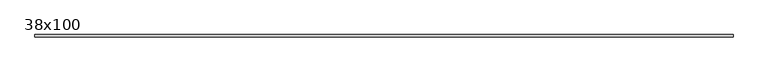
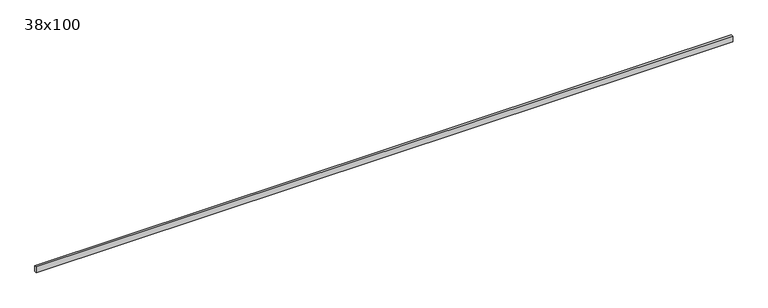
"""IFC4 building model written with IfcOpenShell, lengths in millimetres: beam geometry, Poutre - Bois de construction de dimensions courantes : 38x100."""

from ifc_helpers import new_model, si_unit, frame, origin, place, context, project, spatial, polyline, outline, extrude, source, transform, mapped, element, save


def beam_38x100_b8fadd03(model_context):
    return source(origin(), model_context, "Body", "SweptSolid", [
        extrude(outline(polyline([(5842.0, 19.05), (5842.0, -19.05), (-5842.0, -19.05), (-5842.0, 19.05), (5842.0, 19.05)])), frame((0.0, 0.0, -50.0), z_axis=(0.0, 0.0, 1.0), x_axis=(1.0, 0.0, 0.0)), (0.0, 0.0, 1.0), 100.0),
    ])


if __name__ == "__main__":
    model = new_model("IFC4")
    model_context = context("Model", 3, world=origin())
    ifc_project = project(units=[si_unit("LENGTHUNIT", "METRE", prefix="MILLI")], contexts=[model_context])
    site = spatial("IfcSite", under=ifc_project)
    building = spatial("IfcBuilding", under=site)
    placement = place(None, origin())
    beam_38x100_shape = beam_38x100_b8fadd03(model_context)
    element("IfcBeam", 1, ObjectType="Poutre - Bois de construction de dimensions courantes : 38x100", at=placement, inside=building, context=model_context, shape_type="MappedRepresentation", body=[
        mapped(beam_38x100_shape, transform((0.0, 0.0, 0.0), x_axis=(1.0, 0.0, 0.0), y_axis=(0.0, 1.0, 0.0), z_axis=(0.0, 0.0, 1.0))),
    ])
    save(model, "model.ifc")
